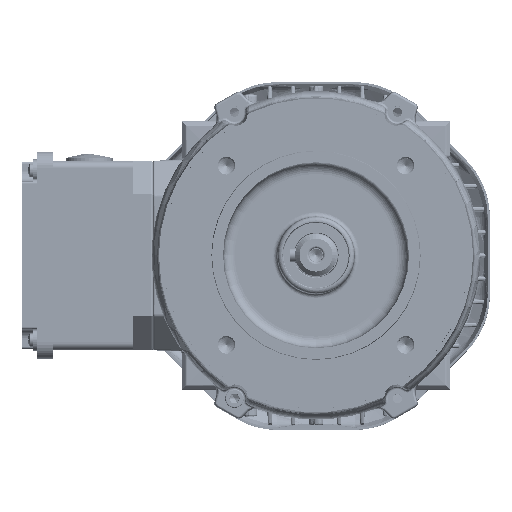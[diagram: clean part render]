
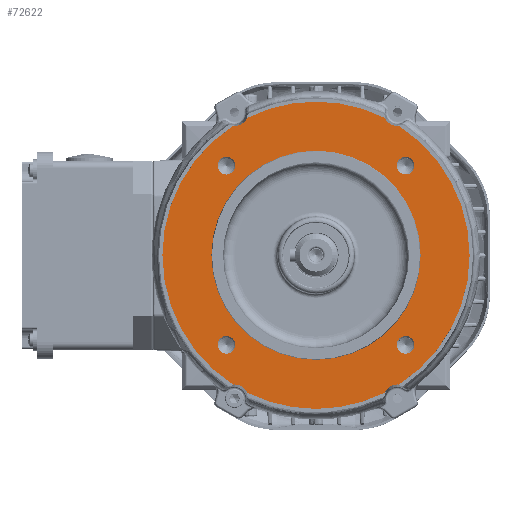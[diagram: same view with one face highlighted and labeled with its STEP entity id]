
A CAD part, top view. The second image highlights one B-rep face of the part: STEP entity #72622.
In plain terms, the highlighted planar face has unit normal (0, 0, 1).
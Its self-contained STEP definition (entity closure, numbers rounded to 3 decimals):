
#62754=PLANE('',#227643);
#72622=ADVANCED_FACE('',(#78316,#78317,#78318,#78319,#78320,#78321),#62754,
 .T.);
#78316=FACE_BOUND('',#88706,.T.);
#78317=FACE_BOUND('',#88707,.T.);
#78318=FACE_BOUND('',#88708,.T.);
#78319=FACE_BOUND('',#88709,.T.);
#78320=FACE_BOUND('',#88710,.T.);
#78321=FACE_BOUND('',#88711,.T.);
#88706=EDGE_LOOP('',(#132193));
#88707=EDGE_LOOP('',(#132194));
#88708=EDGE_LOOP('',(#132195));
#88709=EDGE_LOOP('',(#132196));
#88710=EDGE_LOOP('',(#132197));
#88711=EDGE_LOOP('',(#132198,#132199,#132200,#132201,#132202,#132203,#132204,
#132205));
#132193=ORIENTED_EDGE('',*,*,#176671,.T.);
#132194=ORIENTED_EDGE('',*,*,#176672,.T.);
#132195=ORIENTED_EDGE('',*,*,#176673,.T.);
#132196=ORIENTED_EDGE('',*,*,#176674,.T.);
#132197=ORIENTED_EDGE('',*,*,#175603,.T.);
#132198=ORIENTED_EDGE('',*,*,#176668,.T.);
#132199=ORIENTED_EDGE('',*,*,#175618,.T.);
#132200=ORIENTED_EDGE('',*,*,#176666,.T.);
#132201=ORIENTED_EDGE('',*,*,#175647,.F.);
#132202=ORIENTED_EDGE('',*,*,#176664,.T.);
#132203=ORIENTED_EDGE('',*,*,#175632,.T.);
#132204=ORIENTED_EDGE('',*,*,#176669,.T.);
#132205=ORIENTED_EDGE('',*,*,#175605,.F.);
#152381=VERTEX_POINT('',#419299);
#152383=VERTEX_POINT('',#419306);
#152384=VERTEX_POINT('',#419308);
#152396=VERTEX_POINT('',#419367);
#152397=VERTEX_POINT('',#419368);
#152410=VERTEX_POINT('',#419432);
#152411=VERTEX_POINT('',#419433);
#152425=VERTEX_POINT('',#419501);
#152426=VERTEX_POINT('',#419503);
#152959=VERTEX_POINT('',#427461);
#152960=VERTEX_POINT('',#427463);
#152961=VERTEX_POINT('',#427465);
#152962=VERTEX_POINT('',#427467);
#175603=EDGE_CURVE('',#152381,#152381,#188996,.T.);
#175605=EDGE_CURVE('',#152383,#152384,#188997,.T.);
#175618=EDGE_CURVE('',#152396,#152397,#189001,.T.);
#175632=EDGE_CURVE('',#152410,#152411,#189005,.T.);
#175647=EDGE_CURVE('',#152425,#152426,#189009,.T.);
#176664=EDGE_CURVE('',#152425,#152410,#189493,.T.);
#176666=EDGE_CURVE('',#152397,#152426,#189495,.T.);
#176668=EDGE_CURVE('',#152383,#152396,#189497,.T.);
#176669=EDGE_CURVE('',#152411,#152384,#189498,.T.);
#176671=EDGE_CURVE('',#152959,#152959,#189500,.T.);
#176672=EDGE_CURVE('',#152960,#152960,#189501,.T.);
#176673=EDGE_CURVE('',#152961,#152961,#189502,.T.);
#176674=EDGE_CURVE('',#152962,#152962,#189503,.T.);
#188996=CIRCLE('',#226850,47.5);
#188997=CIRCLE('',#226852,6.329);
#189001=CIRCLE('',#226857,6.329);
#189005=CIRCLE('',#226862,6.329);
#189009=CIRCLE('',#226867,6.329);
#189493=CIRCLE('',#227625,69.75);
#189495=CIRCLE('',#227629,69.75);
#189497=CIRCLE('',#227633,69.75);
#189498=CIRCLE('',#227635,69.75);
#189500=CIRCLE('',#227639,4.);
#189501=CIRCLE('',#227640,4.);
#189502=CIRCLE('',#227641,4.);
#189503=CIRCLE('',#227642,4.);
#226850=AXIS2_PLACEMENT_3D('',#419298,#265094,#265095);
#226852=AXIS2_PLACEMENT_3D('',#419307,#265098,#265099);
#226857=AXIS2_PLACEMENT_3D('',#419366,#265108,#265109);
#226862=AXIS2_PLACEMENT_3D('',#419431,#265118,#265119);
#226867=AXIS2_PLACEMENT_3D('',#419502,#265128,#265129);
#227625=AXIS2_PLACEMENT_3D('',#427446,#266759,#266760);
#227629=AXIS2_PLACEMENT_3D('',#427450,#266767,#266768);
#227633=AXIS2_PLACEMENT_3D('',#427454,#266775,#266776);
#227635=AXIS2_PLACEMENT_3D('',#427456,#266779,#266780);
#227639=AXIS2_PLACEMENT_3D('',#427460,#266787,#266788);
#227640=AXIS2_PLACEMENT_3D('',#427462,#266789,#266790);
#227641=AXIS2_PLACEMENT_3D('',#427464,#266791,#266792);
#227642=AXIS2_PLACEMENT_3D('',#427466,#266793,#266794);
#227643=AXIS2_PLACEMENT_3D('',#427468,#266795,#266796);
#265094=DIRECTION('',(0.,0.,-1.));
#265095=DIRECTION('',(1.,0.,0.));
#265098=DIRECTION('',(0.,0.,1.));
#265099=DIRECTION('',(1.,0.,0.));
#265108=DIRECTION('',(0.,0.,-1.));
#265109=DIRECTION('',(1.,0.,0.));
#265118=DIRECTION('',(0.,0.,-1.));
#265119=DIRECTION('',(1.,0.,0.));
#265128=DIRECTION('',(0.,0.,1.));
#265129=DIRECTION('',(1.,0.,0.));
#266759=DIRECTION('',(0.,0.,1.));
#266760=DIRECTION('',(1.,0.,0.));
#266767=DIRECTION('',(0.,0.,1.));
#266768=DIRECTION('',(1.,0.,0.));
#266775=DIRECTION('',(0.,0.,1.));
#266776=DIRECTION('',(1.,0.,0.));
#266779=DIRECTION('',(0.,0.,1.));
#266780=DIRECTION('',(1.,0.,0.));
#266787=DIRECTION('',(0.,0.,-1.));
#266788=DIRECTION('',(1.,0.,0.));
#266789=DIRECTION('',(0.,0.,-1.));
#266790=DIRECTION('',(1.,0.,0.));
#266791=DIRECTION('',(0.,0.,-1.));
#266792=DIRECTION('',(1.,0.,0.));
#266793=DIRECTION('',(0.,0.,-1.));
#266794=DIRECTION('',(1.,0.,0.));
#266795=DIRECTION('',(0.,0.,1.));
#266796=DIRECTION('',(1.,0.,0.));
#419298=CARTESIAN_POINT('',(0.,0.,69.5));
#419299=CARTESIAN_POINT('',(47.5,0.,69.5));
#419306=CARTESIAN_POINT('',(-37.665,58.706,69.5));
#419307=CARTESIAN_POINT('',(-37.,65.,69.5));
#419308=CARTESIAN_POINT('',(-31.248,62.359,69.5));
#419366=CARTESIAN_POINT('',(-37.,-65.,69.5));
#419367=CARTESIAN_POINT('',(-37.665,-58.706,69.5));
#419368=CARTESIAN_POINT('',(-31.248,-62.359,69.5));
#419431=CARTESIAN_POINT('',(37.,65.,69.5));
#419432=CARTESIAN_POINT('',(37.665,58.706,69.5));
#419433=CARTESIAN_POINT('',(31.248,62.359,69.5));
#419501=CARTESIAN_POINT('',(37.665,-58.706,69.5));
#419502=CARTESIAN_POINT('',(37.,-65.,69.5));
#419503=CARTESIAN_POINT('',(31.248,-62.359,69.5));
#427446=CARTESIAN_POINT('',(0.,0.,69.5));
#427450=CARTESIAN_POINT('',(0.,0.,69.5));
#427454=CARTESIAN_POINT('',(0.,0.,69.5));
#427456=CARTESIAN_POINT('',(0.,0.,69.5));
#427460=CARTESIAN_POINT('',(40.659,-40.659,69.5));
#427461=CARTESIAN_POINT('',(44.659,-40.659,69.5));
#427462=CARTESIAN_POINT('',(40.659,40.659,69.5));
#427463=CARTESIAN_POINT('',(44.659,40.659,69.5));
#427464=CARTESIAN_POINT('',(-40.659,-40.659,69.5));
#427465=CARTESIAN_POINT('',(-36.659,-40.659,69.5));
#427466=CARTESIAN_POINT('',(-40.659,40.659,69.5));
#427467=CARTESIAN_POINT('',(-36.659,40.659,69.5));
#427468=CARTESIAN_POINT('',(0.,0.,69.5));
